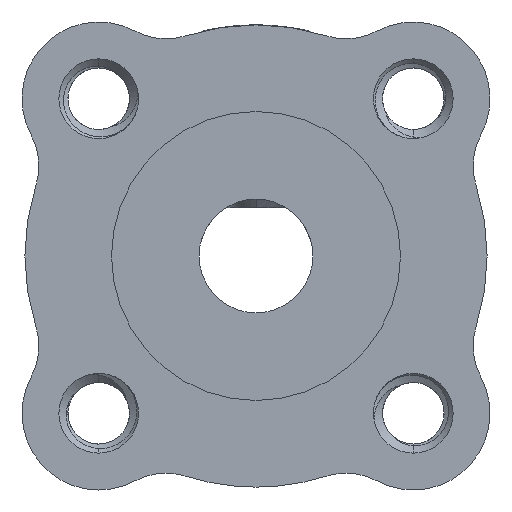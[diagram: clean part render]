
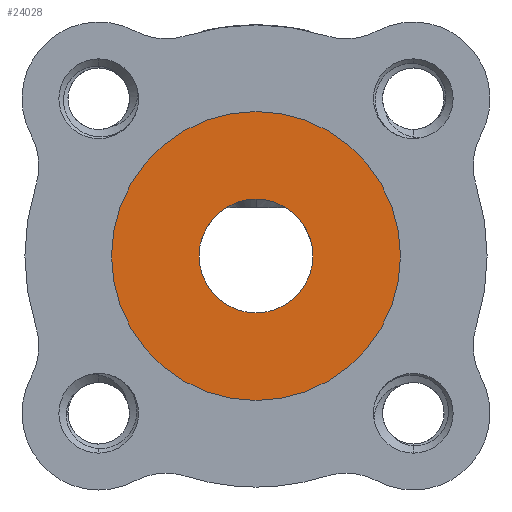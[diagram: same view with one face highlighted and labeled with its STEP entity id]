
A CAD part, front view. The second image highlights one B-rep face of the part: STEP entity #24028.
In plain terms, the highlighted planar face has unit normal (0, -1, 0).
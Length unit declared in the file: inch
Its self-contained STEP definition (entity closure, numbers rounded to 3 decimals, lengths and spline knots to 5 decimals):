
#836 = FACE_BOUND ( 'NONE', #10021, .T. ) ;
#1235 = AXIS2_PLACEMENT_3D ( 'NONE', #11309, #16944, #7319 ) ;
#1484 = CARTESIAN_POINT ( 'NONE',  ( 0., 0., 0. ) ) ;
#1529 = ORIENTED_EDGE ( 'NONE', *, *, #6306, .T. ) ;
#1865 = CIRCLE ( 'NONE', #21535, 0.25 ) ;
#3500 = DIRECTION ( 'NONE',  ( 0., 1., 0. ) ) ;
#5183 = ORIENTED_EDGE ( 'NONE', *, *, #14202, .F. ) ;
#5216 = DIRECTION ( 'NONE',  ( 0., 1., 0. ) ) ;
#6306 = EDGE_CURVE ( 'NONE', #12357, #22785, #21030, .T. ) ;
#7319 = DIRECTION ( 'NONE',  ( 0., 0., 1. ) ) ;
#8700 = DIRECTION ( 'NONE',  ( 0., 0., 1. ) ) ;
#8870 = DIRECTION ( 'NONE',  ( 0., 1., 0. ) ) ;
#9024 = DIRECTION ( 'NONE',  ( 0., 0., 1. ) ) ;
#9329 = CARTESIAN_POINT ( 'NONE',  ( 0., 0., -0.09843 ) ) ;
#9834 = CARTESIAN_POINT ( 'NONE',  ( 0., 0., -0.25 ) ) ;
#10021 = EDGE_LOOP ( 'NONE', ( #17047, #1529 ) ) ;
#10103 = CARTESIAN_POINT ( 'NONE',  ( 0., 0., 0.09843 ) ) ;
#10694 = CIRCLE ( 'NONE', #20993, 0.25 ) ;
#10867 = EDGE_CURVE ( 'NONE', #22785, #12357, #17208, .T. ) ;
#11309 = CARTESIAN_POINT ( 'NONE',  ( 0., 0., 0. ) ) ;
#12207 = DIRECTION ( 'NONE',  ( 0., 0., 1. ) ) ;
#12357 = VERTEX_POINT ( 'NONE', #9329 ) ;
#12841 = VERTEX_POINT ( 'NONE', #9834 ) ;
#12844 = CARTESIAN_POINT ( 'NONE',  ( 0., 0., 0. ) ) ;
#13497 = VERTEX_POINT ( 'NONE', #15131 ) ;
#14202 = EDGE_CURVE ( 'NONE', #12841, #13497, #10694, .T. ) ;
#15131 = CARTESIAN_POINT ( 'NONE',  ( 0., 0., 0.25 ) ) ;
#15228 = DIRECTION ( 'NONE',  ( 0., 0., 1. ) ) ;
#15273 = AXIS2_PLACEMENT_3D ( 'NONE', #1484, #5216, #9024 ) ;
#15963 = EDGE_CURVE ( 'NONE', #13497, #12841, #1865, .T. ) ;
#16564 = FACE_OUTER_BOUND ( 'NONE', #22450, .T. ) ;
#16944 = DIRECTION ( 'NONE',  ( 0., 1., 0. ) ) ;
#17047 = ORIENTED_EDGE ( 'NONE', *, *, #10867, .T. ) ;
#17208 = CIRCLE ( 'NONE', #15273, 0.09843 ) ;
#18019 = CARTESIAN_POINT ( 'NONE',  ( 0., 0., 0. ) ) ;
#18183 = DIRECTION ( 'NONE',  ( 0., 1., 0. ) ) ;
#20993 = AXIS2_PLACEMENT_3D ( 'NONE', #24857, #3500, #15228 ) ;
#21030 = CIRCLE ( 'NONE', #1235, 0.09843 ) ;
#21535 = AXIS2_PLACEMENT_3D ( 'NONE', #18019, #18183, #12207 ) ;
#22450 = EDGE_LOOP ( 'NONE', ( #5183, #23854 ) ) ;
#22785 = VERTEX_POINT ( 'NONE', #10103 ) ;
#23854 = ORIENTED_EDGE ( 'NONE', *, *, #15963, .F. ) ;
#24028 = ADVANCED_FACE ( 'NONE', ( #836, #16564 ), #24388, .F. ) ;
#24092 = AXIS2_PLACEMENT_3D ( 'NONE', #12844, #8870, #8700 ) ;
#24388 = PLANE ( 'NONE',  #24092 ) ;
#24857 = CARTESIAN_POINT ( 'NONE',  ( 0., 0., 0. ) ) ;
